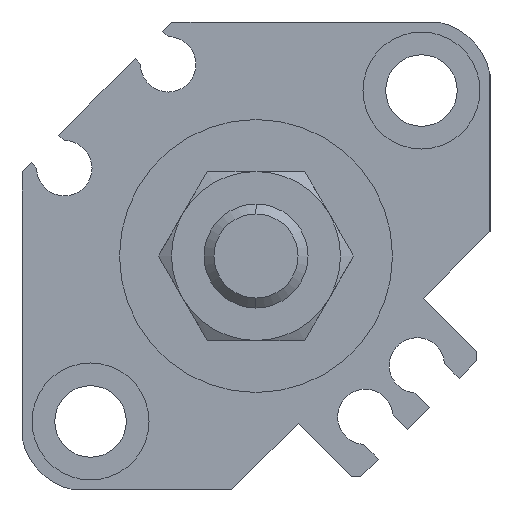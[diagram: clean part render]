
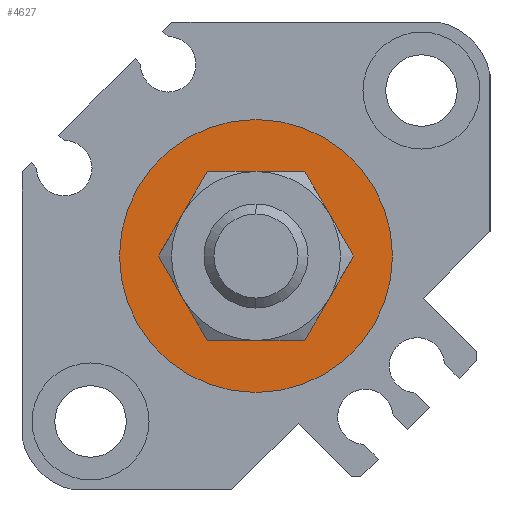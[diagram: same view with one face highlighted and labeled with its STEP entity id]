
A CAD part, left-side view. The second image highlights one B-rep face of the part: STEP entity #4627.
In plain terms, the highlighted planar face has unit normal (-1, 0, 0).
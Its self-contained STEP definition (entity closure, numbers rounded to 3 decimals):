
#8 = AXIS2_PLACEMENT_3D ( 'NONE', #3410, #1352, #2200 ) ;
#117 = DIRECTION ( 'NONE',  ( 1., 0., 0. ) ) ;
#407 = DIRECTION ( 'NONE',  ( 0., 1., 0. ) ) ;
#425 = VERTEX_POINT ( 'NONE', #3236 ) ;
#752 = DIRECTION ( 'NONE',  ( 1., 0., 0. ) ) ;
#841 = AXIS2_PLACEMENT_3D ( 'NONE', #1104, #4837, #3136 ) ;
#903 = VERTEX_POINT ( 'NONE', #5006 ) ;
#1023 = CIRCLE ( 'NONE', #841, 10.5 ) ;
#1071 = EDGE_CURVE ( 'NONE', #425, #1946, #5045, .T. ) ;
#1104 = CARTESIAN_POINT ( 'NONE',  ( 1.6, 0., 0. ) ) ;
#1141 = VERTEX_POINT ( 'NONE', #5273 ) ;
#1313 = CIRCLE ( 'NONE', #2178, 6.5 ) ;
#1352 = DIRECTION ( 'NONE',  ( 1., 0., 0. ) ) ;
#1750 = EDGE_CURVE ( 'NONE', #1141, #903, #1023, .T. ) ;
#1946 = VERTEX_POINT ( 'NONE', #1996 ) ;
#1996 = CARTESIAN_POINT ( 'NONE',  ( 1.6, 0., -6.5 ) ) ;
#2088 = EDGE_LOOP ( 'NONE', ( #3040, #3784 ) ) ;
#2094 = CIRCLE ( 'NONE', #8, 10.5 ) ;
#2178 = AXIS2_PLACEMENT_3D ( 'NONE', #4464, #752, #3240 ) ;
#2200 = DIRECTION ( 'NONE',  ( 0., 0., -1. ) ) ;
#2271 = CARTESIAN_POINT ( 'NONE',  ( 1.6, 0., 0. ) ) ;
#2744 = ORIENTED_EDGE ( 'NONE', *, *, #4275, .T. ) ;
#2843 = ORIENTED_EDGE ( 'NONE', *, *, #1071, .T. ) ;
#3040 = ORIENTED_EDGE ( 'NONE', *, *, #4071, .F. ) ;
#3136 = DIRECTION ( 'NONE',  ( 0., 0., -1. ) ) ;
#3148 = AXIS2_PLACEMENT_3D ( 'NONE', #4122, #4051, #407 ) ;
#3236 = CARTESIAN_POINT ( 'NONE',  ( 1.6, 0., 6.5 ) ) ;
#3240 = DIRECTION ( 'NONE',  ( 0., 0., -1. ) ) ;
#3410 = CARTESIAN_POINT ( 'NONE',  ( 1.6, 0., 0. ) ) ;
#3688 = FACE_OUTER_BOUND ( 'NONE', #2088, .T. ) ;
#3784 = ORIENTED_EDGE ( 'NONE', *, *, #1750, .F. ) ;
#3902 = EDGE_LOOP ( 'NONE', ( #2843, #2744 ) ) ;
#4051 = DIRECTION ( 'NONE',  ( 1., 0., 0. ) ) ;
#4071 = EDGE_CURVE ( 'NONE', #903, #1141, #2094, .T. ) ;
#4122 = CARTESIAN_POINT ( 'NONE',  ( 1.6, 0., 0. ) ) ;
#4275 = EDGE_CURVE ( 'NONE', #1946, #425, #1313, .T. ) ;
#4464 = CARTESIAN_POINT ( 'NONE',  ( 1.6, 0., 0. ) ) ;
#4627 = ADVANCED_FACE ( 'NONE', ( #3688, #4974 ), #5276, .F. ) ;
#4837 = DIRECTION ( 'NONE',  ( 1., 0., 0. ) ) ;
#4974 = FACE_BOUND ( 'NONE', #3902, .T. ) ;
#5006 = CARTESIAN_POINT ( 'NONE',  ( 1.6, 0., 10.5 ) ) ;
#5045 = CIRCLE ( 'NONE', #5227, 6.5 ) ;
#5141 = DIRECTION ( 'NONE',  ( 0., 0., -1. ) ) ;
#5227 = AXIS2_PLACEMENT_3D ( 'NONE', #2271, #117, #5141 ) ;
#5273 = CARTESIAN_POINT ( 'NONE',  ( 1.6, 0., -10.5 ) ) ;
#5276 = PLANE ( 'NONE',  #3148 ) ;
